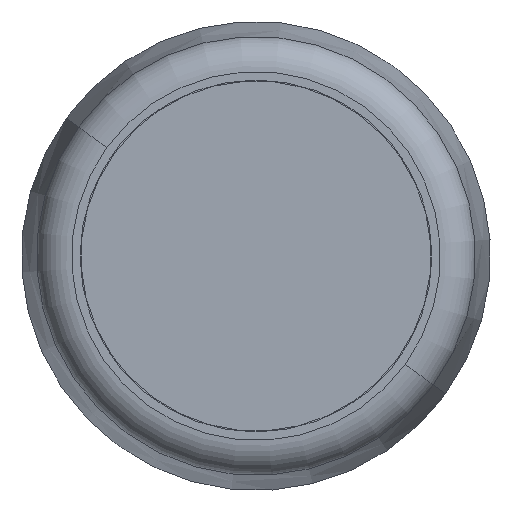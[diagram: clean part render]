
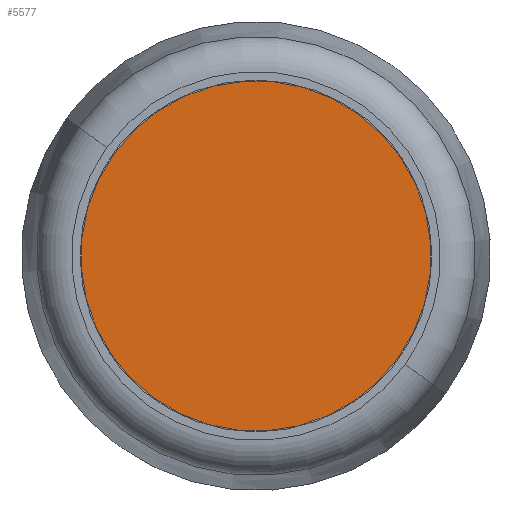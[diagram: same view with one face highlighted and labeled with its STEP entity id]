
A CAD part, front view. The second image highlights one B-rep face of the part: STEP entity #5577.
In plain terms, the highlighted planar face has unit normal (0, -1, 0).
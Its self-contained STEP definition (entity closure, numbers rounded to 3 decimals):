
#33 = EDGE_CURVE ( 'NONE', #3232, #3163, #5801, .T. ) ;
#43 = EDGE_CURVE ( 'NONE', #3163, #3232, #5812, .T. ) ;
#795 = CARTESIAN_POINT ( 'NONE',  ( 0., 0.2, 0. ) ) ;
#798 = DIRECTION ( 'NONE',  ( 0., 1., 0. ) ) ;
#804 = DIRECTION ( 'NONE',  ( 0., 0., 1. ) ) ;
#1572 = PLANE ( 'NONE',  #8988 ) ;
#1577 = CARTESIAN_POINT ( 'NONE',  ( -3.068, 0.2, -10. ) ) ;
#1580 = FACE_OUTER_BOUND ( 'NONE', #2234, .T. ) ;
#1593 = DIRECTION ( 'NONE',  ( 0., 0., 1. ) ) ;
#1609 = DIRECTION ( 'NONE',  ( 0., 1., 0. ) ) ;
#2234 = EDGE_LOOP ( 'NONE', ( #3294, #3321 ) ) ;
#2744 = DIRECTION ( 'NONE',  ( 0., 0., 1. ) ) ;
#2753 = DIRECTION ( 'NONE',  ( 0., 1., 0. ) ) ;
#2758 = CARTESIAN_POINT ( 'NONE',  ( 0., 0.2, 0. ) ) ;
#3163 = VERTEX_POINT ( 'NONE', #6234 ) ;
#3232 = VERTEX_POINT ( 'NONE', #6293 ) ;
#3294 = ORIENTED_EDGE ( 'NONE', *, *, #43, .F. ) ;
#3321 = ORIENTED_EDGE ( 'NONE', *, *, #33, .F. ) ;
#5577 = ADVANCED_FACE ( 'NONE', ( #1580 ), #1572, .F. ) ;
#5801 = CIRCLE ( 'NONE', #5814, 3. ) ;
#5812 = CIRCLE ( 'NONE', #5821, 3. ) ;
#5814 = AXIS2_PLACEMENT_3D ( 'NONE', #2758, #2753, #2744 ) ;
#5821 = AXIS2_PLACEMENT_3D ( 'NONE', #795, #798, #804 ) ;
#6234 = CARTESIAN_POINT ( 'NONE',  ( 0., 0.2, 3. ) ) ;
#6293 = CARTESIAN_POINT ( 'NONE',  ( 0., 0.2, -3. ) ) ;
#8988 = AXIS2_PLACEMENT_3D ( 'NONE', #1577, #1609, #1593 ) ;
